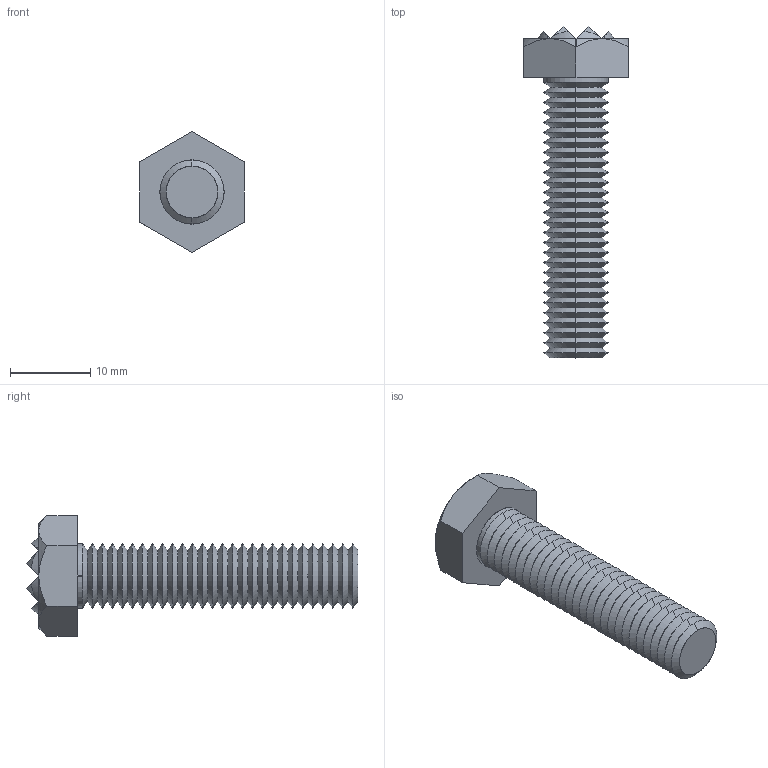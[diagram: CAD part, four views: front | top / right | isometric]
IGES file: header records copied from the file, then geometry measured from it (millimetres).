
Start section: SolidWorks IGES file using analytic representation for surfaces
Global section: file name: C:\Documents and Settings\IANO\Desktop\Temp File\Process pending\NEW\35400_v2\35400_v2_20170704_IGES\35400.W0005.igs; native system: SolidWorks 2009; preprocessor: SolidWorks 2009; author: IANO; date: 170703.082053; units: millimetre
Bounding box: 13 x 41.4 x 15.01 mm (x, y, z)
Surface area: 1780 mm2 (no closed solid volume)
Topology: 0 solids, 0 shells, 188 faces, 941 edges, 941 vertices
Faces by surface type: revolution 131, bspline 57
